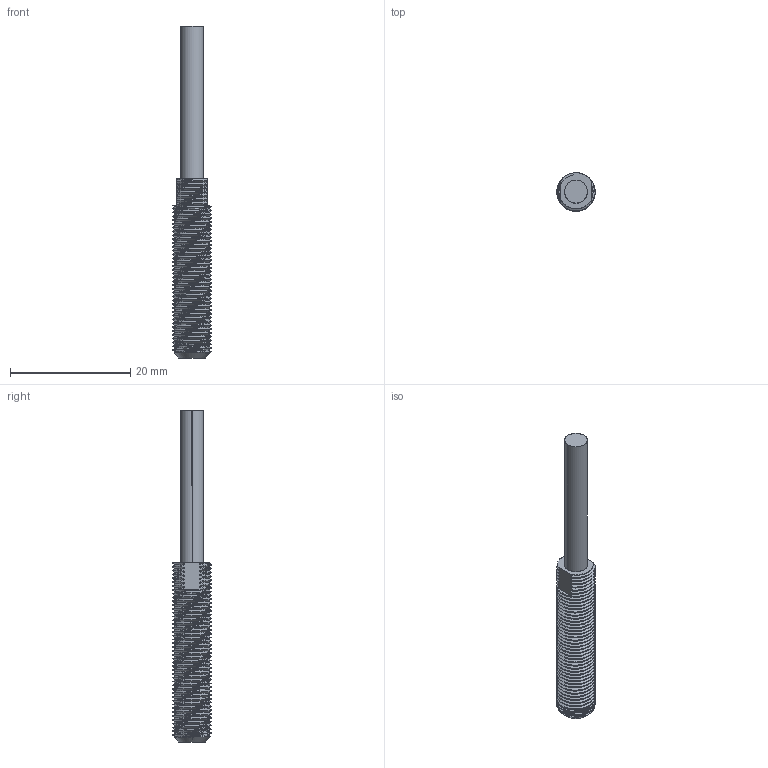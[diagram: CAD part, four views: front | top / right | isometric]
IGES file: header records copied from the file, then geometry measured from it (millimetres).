
Start section: SolidWorks IGES file using analytic representation for surfaces
Global section: file name: C:\Documents and Settings\Administrator\My Documents\EDI\3D\finished sensors\1S.IGS; native system: SolidWorks 2008; preprocessor: SolidWorks 2008; author: Administrator; date: 100304.192316; units: inch
Bounding box: 6.35 x 6.35 x 55.12 mm (x, y, z)
Surface area: 1229.3 mm2 (no closed solid volume)
Topology: 0 solids, 0 shells, 149 faces, 2926 edges, 2926 vertices
Faces by surface type: revolution 97, bspline 52
